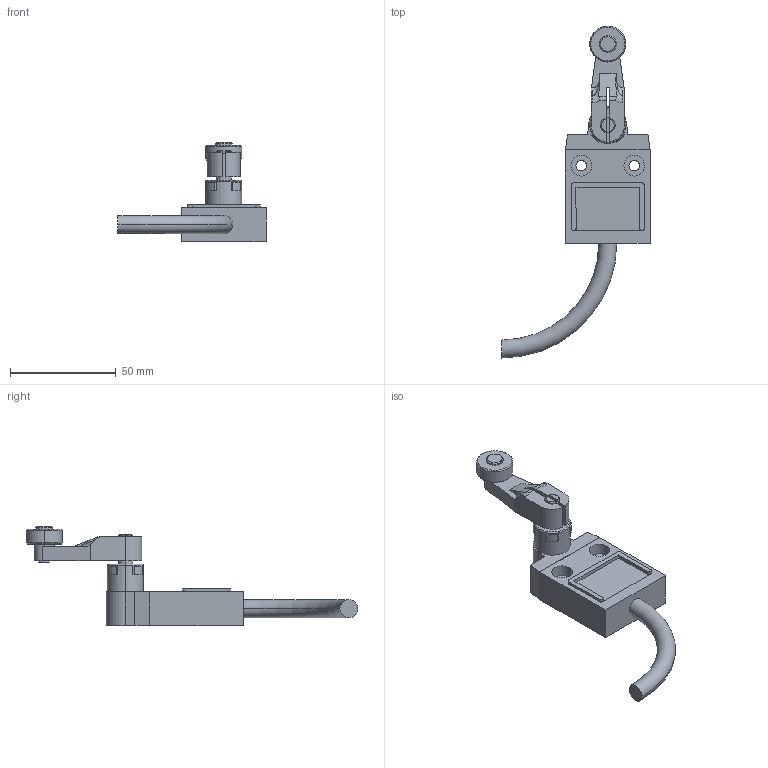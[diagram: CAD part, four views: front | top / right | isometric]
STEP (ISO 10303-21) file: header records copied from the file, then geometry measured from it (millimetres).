
FILE_DESCRIPTION (( 'STEP AP203' ), '1' );
FILE_NAME ('TZ-3104.STEP', '2019-05-24T13:55:42', ( '' ), ( '' ), 'SwSTEP 2.0', 'SolidWorks 2012', '' );
FILE_SCHEMA (( 'CONFIG_CONTROL_DESIGN' ));
Length unit declared in the file: millimetre
Products named in the file (1): TZ-3104
Bounding box: 70 x 156.75 x 46.8 mm (x, y, z)
Volume: 49350.9 mm3; surface area: 15747 mm2
Topology: 1 solids, 1 shells, 215 faces, 544 edges, 355 vertices
Faces by surface type: plane 128, cylinder 66, torus 10, cone 9, bspline 2
Entity records: 6700 total; most frequent: CARTESIAN_POINT 1393, ORIENTED_EDGE 1088, DIRECTION 1083, EDGE_CURVE 544, AXIS2_PLACEMENT_3D 377, VERTEX_POINT 355, LINE 329, VECTOR 329
